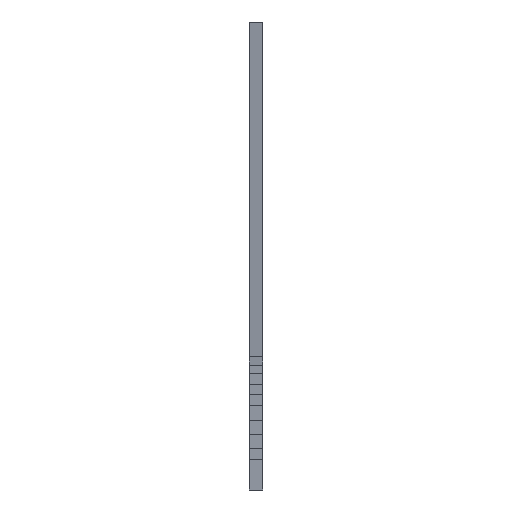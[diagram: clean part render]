
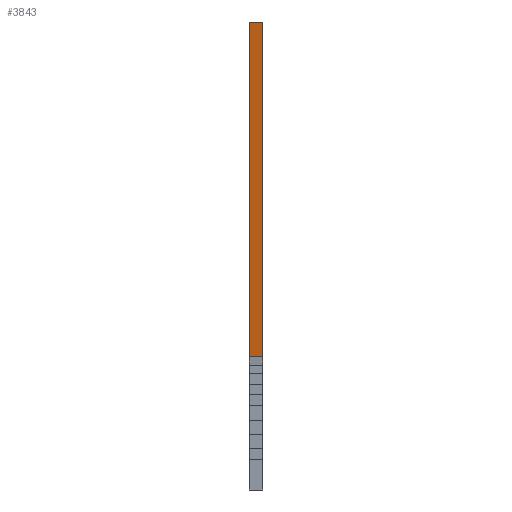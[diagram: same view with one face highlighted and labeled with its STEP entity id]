
A CAD part, left-side view. The second image highlights one B-rep face of the part: STEP entity #3843.
In plain terms, the highlighted planar face has unit normal (-0.128, 0, 0.992).
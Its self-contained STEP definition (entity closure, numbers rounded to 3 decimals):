
#487=DIRECTION('',(0.992,0.,0.128));
#488=VECTOR('',#487,676.729);
#489=CARTESIAN_POINT('',(-67.322,-19.,-305.864));
#490=LINE('',#489,#488);
#957=DIRECTION('',(0.992,0.,0.128));
#958=VECTOR('',#957,676.729);
#959=CARTESIAN_POINT('',(-67.322,-16.,-305.864));
#960=LINE('',#959,#958);
#1397=DIRECTION('',(0.,1.,0.));
#1398=VECTOR('',#1397,3.);
#1399=CARTESIAN_POINT('',(603.825,-19.,-219.129));
#1400=LINE('',#1399,#1398);
#1401=DIRECTION('',(0.,1.,0.));
#1402=VECTOR('',#1401,3.);
#1403=CARTESIAN_POINT('',(-67.322,-19.,-305.864));
#1404=LINE('',#1403,#1402);
#1705=CARTESIAN_POINT('',(603.825,-19.,-219.129));
#1707=VERTEX_POINT('',#1705);
#1709=CARTESIAN_POINT('',(603.825,-16.,-219.129));
#1711=VERTEX_POINT('',#1709);
#1869=CARTESIAN_POINT('',(-67.322,-19.,-305.864));
#1870=CARTESIAN_POINT('',(-67.322,-16.,-305.864));
#1871=VERTEX_POINT('',#1869);
#1872=VERTEX_POINT('',#1870);
#3831=CARTESIAN_POINT('',(-67.322,-19.,-305.864));
#3832=DIRECTION('',(-0.128,0.,0.992));
#3833=DIRECTION('',(0.992,0.,0.128));
#3834=AXIS2_PLACEMENT_3D('',#3831,#3832,#3833);
#3835=PLANE('',#3834);
#3836=ORIENTED_EDGE('',*,*,#3823,.F.);
#3837=ORIENTED_EDGE('',*,*,#1896,.F.);
#3839=ORIENTED_EDGE('',*,*,#3838,.T.);
#3840=ORIENTED_EDGE('',*,*,#2193,.T.);
#3841=EDGE_LOOP('',(#3836,#3837,#3839,#3840));
#3842=FACE_OUTER_BOUND('',#3841,.F.);
#3843=ADVANCED_FACE('',(#3842),#3835,.T.);
#1896=EDGE_CURVE('',#1871,#1707,#490,.T.);
#2193=EDGE_CURVE('',#1872,#1711,#960,.T.);
#3823=EDGE_CURVE('',#1707,#1711,#1400,.T.);
#3838=EDGE_CURVE('',#1871,#1872,#1404,.T.);
